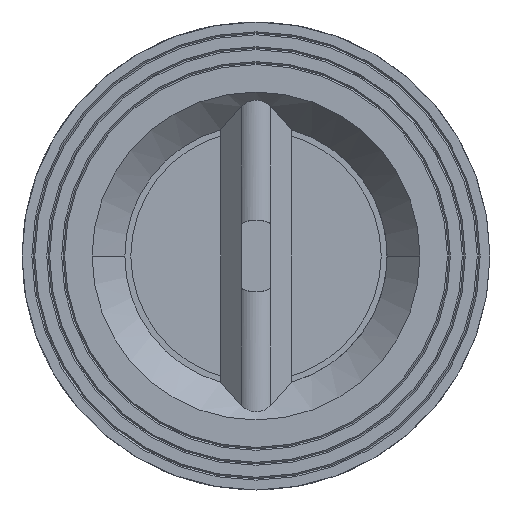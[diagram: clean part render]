
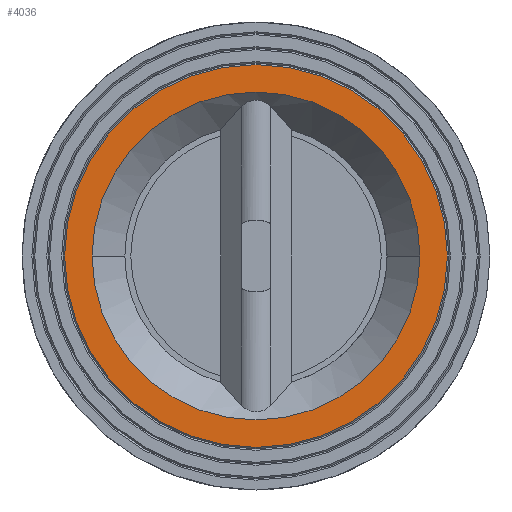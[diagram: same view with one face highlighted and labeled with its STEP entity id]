
A CAD part, front view. The second image highlights one B-rep face of the part: STEP entity #4036.
In plain terms, the highlighted planar face has unit normal (0, -1, 0).
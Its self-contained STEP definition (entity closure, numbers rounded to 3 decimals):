
#91 = AXIS2_PLACEMENT_3D ( 'NONE', #267, #2546, #7885 ) ;
#267 = CARTESIAN_POINT ( 'NONE',  ( 3398.759, 1461.103, 0. ) ) ;
#487 = VERTEX_POINT ( 'NONE', #7489 ) ;
#954 = EDGE_CURVE ( 'NONE', #8275, #487, #5609, .T. ) ;
#1118 = CARTESIAN_POINT ( 'NONE',  ( 3398.759, 1461.103, 0. ) ) ;
#1308 = FACE_BOUND ( 'NONE', #1687, .T. ) ;
#1429 = DIRECTION ( 'NONE',  ( -1., 0., 0. ) ) ;
#1687 = EDGE_LOOP ( 'NONE', ( #2709, #3992 ) ) ;
#2266 = AXIS2_PLACEMENT_3D ( 'NONE', #1118, #6469, #7093 ) ;
#2462 = CARTESIAN_POINT ( 'NONE',  ( 3334.559, 1461.103, 0. ) ) ;
#2546 = DIRECTION ( 'NONE',  ( 0., 1., 0. ) ) ;
#2709 = ORIENTED_EDGE ( 'NONE', *, *, #4837, .T. ) ;
#3721 = CARTESIAN_POINT ( 'NONE',  ( 3398.759, 1461.103, 0. ) ) ;
#3733 = EDGE_CURVE ( 'NONE', #4455, #5811, #5618, .T. ) ;
#3821 = FACE_OUTER_BOUND ( 'NONE', #3849, .T. ) ;
#3849 = EDGE_LOOP ( 'NONE', ( #5993, #8890 ) ) ;
#3992 = ORIENTED_EDGE ( 'NONE', *, *, #954, .T. ) ;
#4036 = ADVANCED_FACE ( 'NONE', ( #3821, #1308 ), #8178, .F. ) ;
#4317 = CARTESIAN_POINT ( 'NONE',  ( 3398.759, 1461.103, 0. ) ) ;
#4423 = CARTESIAN_POINT ( 'NONE',  ( 3462.959, 1461.103, 0. ) ) ;
#4455 = VERTEX_POINT ( 'NONE', #2462 ) ;
#4493 = DIRECTION ( 'NONE',  ( -1., 0., 0. ) ) ;
#4837 = EDGE_CURVE ( 'NONE', #487, #8275, #7984, .T. ) ;
#5153 = DIRECTION ( 'NONE',  ( 0., 1., 0. ) ) ;
#5334 = DIRECTION ( 'NONE',  ( 0., 1., 0. ) ) ;
#5609 = CIRCLE ( 'NONE', #5692, 55. ) ;
#5618 = CIRCLE ( 'NONE', #2266, 64.2 ) ;
#5692 = AXIS2_PLACEMENT_3D ( 'NONE', #3721, #9032, #4493 ) ;
#5811 = VERTEX_POINT ( 'NONE', #4423 ) ;
#5993 = ORIENTED_EDGE ( 'NONE', *, *, #3733, .F. ) ;
#6469 = DIRECTION ( 'NONE',  ( 0., 1., 0. ) ) ;
#6699 = AXIS2_PLACEMENT_3D ( 'NONE', #7453, #5153, #8078 ) ;
#7093 = DIRECTION ( 'NONE',  ( -1., 0., 0. ) ) ;
#7211 = CARTESIAN_POINT ( 'NONE',  ( 3343.759, 1461.103, 0. ) ) ;
#7453 = CARTESIAN_POINT ( 'NONE',  ( 0., 1461.103, 0. ) ) ;
#7464 = EDGE_CURVE ( 'NONE', #5811, #4455, #8063, .T. ) ;
#7489 = CARTESIAN_POINT ( 'NONE',  ( 3453.759, 1461.103, 0. ) ) ;
#7881 = AXIS2_PLACEMENT_3D ( 'NONE', #4317, #5334, #1429 ) ;
#7885 = DIRECTION ( 'NONE',  ( -1., 0., 0. ) ) ;
#7984 = CIRCLE ( 'NONE', #7881, 55. ) ;
#8063 = CIRCLE ( 'NONE', #91, 64.2 ) ;
#8078 = DIRECTION ( 'NONE',  ( -1., 0., 0. ) ) ;
#8178 = PLANE ( 'NONE',  #6699 ) ;
#8275 = VERTEX_POINT ( 'NONE', #7211 ) ;
#8890 = ORIENTED_EDGE ( 'NONE', *, *, #7464, .F. ) ;
#9032 = DIRECTION ( 'NONE',  ( 0., 1., 0. ) ) ;
